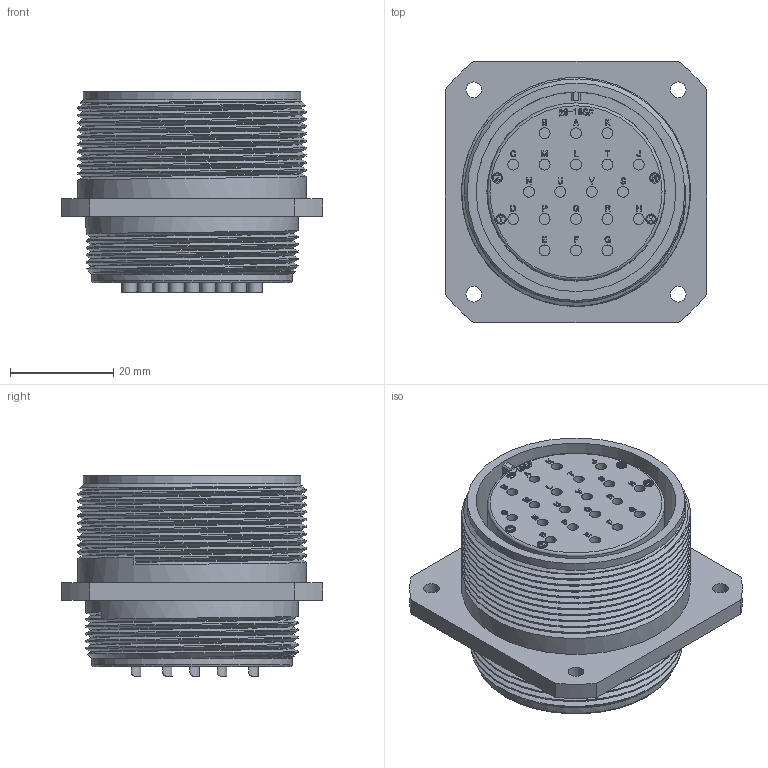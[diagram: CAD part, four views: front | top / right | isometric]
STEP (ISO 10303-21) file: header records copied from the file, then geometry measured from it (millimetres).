
FILE_DESCRIPTION (( 'STEP AP203' ), '1' );
FILE_NAME ('DMS3100A28-16S(D263).STEP', '2022-02-14T09:39:45', ( '' ), ( '' ), 'SwSTEP 2.0', 'SolidWorks 2018', '' );
FILE_SCHEMA (( 'CONFIG_CONTROL_DESIGN' ));
Length unit declared in the file: millimetre
Products named in the file (1): DMS3100A28-16S(D263)
Bounding box: 50.8 x 50.8 x 38.92 mm (x, y, z)
Volume: 46094.3 mm3; surface area: 21161.5 mm2
Topology: 1 solids, 1 shells, 1550 faces, 4152 edges, 2768 vertices
Faces by surface type: plane 880, bspline 473, cylinder 193, cone 2, torus 2
Full cylindrical faces by diameter (mm): 1.6 x4, 2 x4, 2.11 x20, 3.05 x4, 31.75 x1, 34.41 x1, 34.6 x1, 36.35 x1, 38.75 x1, 38.94 x1, 41.23 x5, 42.22 x1, 44.41 x10
Entity records: 65236 total; most frequent: CARTESIAN_POINT 30424, ORIENTED_EDGE 8108, DIRECTION 5307, EDGE_CURVE 4054, VERTEX_POINT 2729, LINE 2613, VECTOR 2613, EDGE_LOOP 1753
